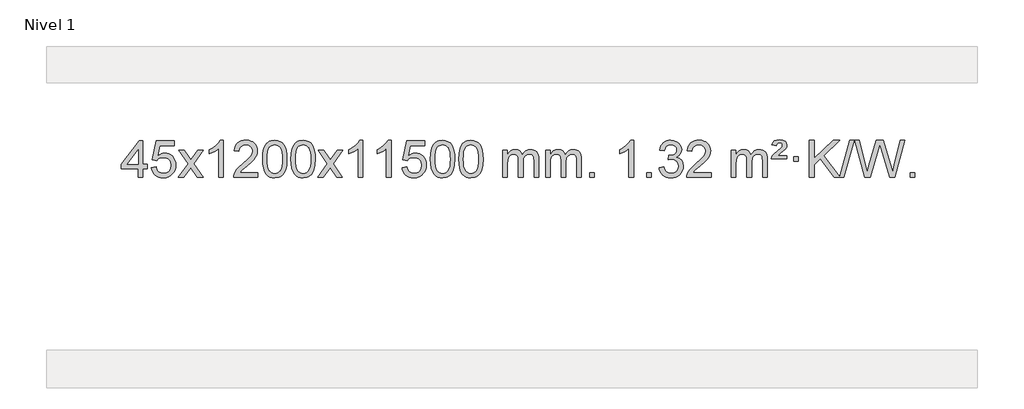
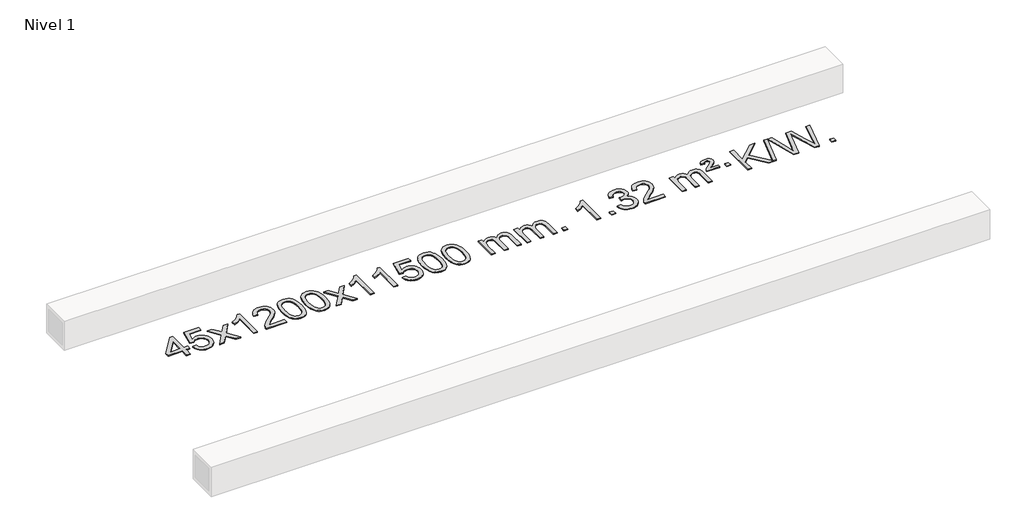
# One storey, part 2 of 4: 1 proxy.
"""IFC4 building model written with IfcOpenShell, lengths in millimetres."""

from ifc_helpers import new_model, si_unit, origin, origin_with_axes, place, context, project, spatial, polyline, outline, extrude, element, save

model = new_model("IFC4")

# Units and contexts
model_context = context("Model", 3, world=origin())
ifc_project = project(units=[si_unit("LENGTHUNIT", "METRE", prefix="MILLI")], contexts=[model_context])

# Site, building, storey
site = spatial("IfcSite", under=ifc_project)
building = spatial("IfcBuilding", under=site)
storey = spatial("IfcBuildingStorey", under=building, Name="Nivel 1", Elevation=0.0)

# Proxy
placement = place(None, origin())
element("IfcBuildingElementProxy", 1, Name="Texto de modelo 1", ObjectType="Texto de modelo 1", at=placement, inside=storey, context=model_context, shape_type="SweptSolid", body=[
    extrude(outline(polyline([(-19001.7254597, -4316.3248037), (-19001.7254597, -4222.1470129), (-19183.8025218, -4222.1470129), (-19183.8025218, -4171.9188579), (-18989.1684209, -3920.7780825), (-18951.4973046, -3920.7780825), (-18951.4973046, -4171.9188579), (-18901.2691495, -4171.9188579), (-18901.2691495, -4222.1470129), (-18951.4973046, -4222.1470129), (-18951.4973046, -4316.3248037), (-19001.7254597, -4316.3248037)]), holes=[polyline([(-19001.7254597, -4171.9188579), (-19001.7254597, -4016.7217068), (-19121.9983466, -4171.9188579), (-19001.7254597, -4171.9188579)])]), origin_with_axes(), (0.0, 0.0, 1.0), 10.0),
    extrude(outline(polyline([(-18857.3195138, -4209.5899742), (-18807.0913588, -4203.3114548), (-18797.8697834, -4233.4655156), (-18781.7810775, -4255.0601888), (-18758.8988174, -4268.0464232), (-18729.2965795, -4272.375168), (-18710.1667158, -4270.8699175), (-18693.2931949, -4266.354166), (-18678.676017, -4258.8279135), (-18666.3151819, -4248.2911601), (-18656.4866013, -4235.2650717), (-18649.4661866, -4220.2708148), (-18643.8498548, -4184.3777948), (-18649.1105673, -4150.5817021), (-18655.686458, -4136.6635), (-18664.8927049, -4124.7318606), (-18676.7599649, -4115.1607974), (-18691.3188949, -4108.3243236), (-18728.5117646, -4102.8551446), (-18752.8778154, -4105.0379111), (-18772.6085531, -4111.5862106), (-18788.3661652, -4121.6171264), (-18800.8128394, -4134.2477415), (-18851.0409945, -4127.9692222), (-18807.0913588, -3920.7780825), (-18612.4572579, -3920.7780825), (-18612.4572579, -3971.0062376), (-18766.4771865, -3971.0062376), (-18787.961495, -4081.6651417), (-18770.2357142, -4068.9609501), (-18752.0807378, -4059.8865276), (-18733.4965656, -4054.4418741), (-18714.4831979, -4052.6269896), (-18690.0221109, -4054.8772011), (-18667.553718, -4061.6278357), (-18647.0780193, -4072.8788934), (-18628.5950147, -4088.6303741), (-18613.2941894, -4107.9196534), (-18602.3650285, -4129.7841067), (-18595.8075319, -4154.2237339), (-18593.6216997, -4181.2385351), (-18595.5898684, -4207.2600549), (-18601.4943744, -4231.4666901), (-18611.3352178, -4253.8584409), (-18625.1123985, -4274.4353072), (-18645.9835703, -4295.5088141), (-18670.3373584, -4310.5613191), (-18698.1737627, -4319.5928221), (-18729.4927833, -4322.6033231), (-18755.4131355, -4320.6688769), (-18778.8257588, -4314.8655384), (-18799.7306532, -4305.1933077), (-18818.1278186, -4291.6521846), (-18833.4347753, -4274.9166195), (-18845.0690434, -4255.6610627), (-18853.0306229, -4233.8855143), (-18857.3195138, -4209.5899742)])), origin_with_axes(), (0.0, 0.0, 1.0), 10.0),
    extrude(outline(polyline([(-18568.5076222, -4316.3248037), (-18461.1841814, -4167.9947832), (-18562.2291028, -4021.2343926), (-18501.7983537, -4021.2343926), (-18453.0417266, -4091.8677357), (-18430.2820938, -4125.2223699), (-18410.5636189, -4097.9500514), (-18355.0379631, -4021.2343926), (-18294.607214, -4021.2343926), (-18400.7534324, -4167.9947832), (-18298.5312886, -4316.3248037), (-18358.9620377, -4316.3248037), (-18420.4719073, -4227.1502081), (-18431.7536218, -4210.8652984), (-18508.0768731, -4316.3248037), (-18568.5076222, -4316.3248037)])), origin_with_axes(), (0.0, 0.0, 1.0), 10.0),
    extrude(outline(polyline([(-18078.7831102, -4316.3248037), (-18129.0112653, -4316.3248037), (-18129.0112653, -4003.1836494), (-18149.980539, -4020.1430094), (-18176.59067, -4037.0778439), (-18229.4675754, -4062.4371761), (-18229.4675754, -4014.9558732), (-18190.0183628, -3993.4960902), (-18155.8421254, -3967.9650797), (-18128.9009007, -3940.8153885), (-18111.1567258, -3914.4995631), (-18078.7831102, -3914.4995631), (-18078.7831102, -4316.3248037)])), origin_with_axes(), (0.0, 0.0, 1.0), 10.0),
    extrude(outline(polyline([(-17702.0719471, -4266.0966486), (-17702.0719471, -4316.3248037), (-17965.7697613, -4316.3248037), (-17964.6661153, -4298.6419425), (-17960.3741587, -4281.6948452), (-17947.9887982, -4254.6309931), (-17929.8644785, -4228.3764814), (-17903.646755, -4200.8956963), (-17866.9811828, -4170.1530243), (-17812.7799022, -4122.0095338), (-17780.2591338, -4086.4721331), (-17763.9987496, -4057.6301847), (-17758.5786216, -4029.5730512), (-17763.6921813, -4004.4221855), (-17779.0328605, -3983.5142254), (-17802.6140964, -3969.424345), (-17832.4493262, -3964.7277182), (-17863.7806095, -3969.3139804), (-17888.1221348, -3983.072767), (-17903.830696, -4004.9249575), (-17909.2630868, -4033.7914314), (-17959.4912419, -4027.512912), (-17955.1716941, -4001.5833627), (-17947.3143478, -3978.9279632), (-17935.919203, -3959.5467134), (-17920.9862597, -3943.4396134), (-17902.8588744, -3930.7783414), (-17881.8804036, -3921.7345757), (-17858.0508474, -3916.3083162), (-17831.3702057, -3914.4995631), (-17804.4504407, -3916.5106513), (-17780.4921258, -3922.5439161), (-17759.4952609, -3932.5993573), (-17741.4598461, -3946.6769749), (-17726.9744925, -3963.7344368), (-17716.6278114, -3982.7294105), (-17710.4198027, -4003.661896), (-17708.3504665, -4026.5318934), (-17710.5822839, -4050.5545876), (-17717.2777363, -4074.160349), (-17729.1603247, -4098.1707806), (-17746.9535505, -4123.4074854), (-17775.3172524, -4153.5370208), (-17818.9112688, -4192.225944), (-17876.6932675, -4240.5411127), (-17899.3547984, -4266.0966486), (-17702.0719471, -4266.0966486)])), origin_with_axes(), (0.0, 0.0, 1.0), 10.0),
    extrude(outline(polyline([(-17651.8437921, -4118.649545), (-17648.1527094, -4054.3315095), (-17637.0794613, -4003.0364966), (-17618.7344125, -3963.9796914), (-17606.8763495, -3948.7463112), (-17593.2279275, -3936.3762791), (-17577.7431612, -3926.8052158), (-17560.3760653, -3919.9687421), (-17519.994885, -3914.4995631), (-17489.0437465, -3917.7369247), (-17461.3299695, -3927.4490093), (-17438.1534038, -3943.2556724), (-17420.8138991, -3964.7767691), (-17407.7173001, -3991.8283585), (-17397.2694514, -4024.2264995), (-17390.4268463, -4065.3679693), (-17388.1459779, -4118.649545), (-17391.8002724, -4182.5996984), (-17402.7631558, -4233.772084), (-17420.9978401, -4272.8656773), (-17432.8283119, -4288.1450429), (-17446.4675369, -4300.5794543), (-17461.9706973, -4310.2148969), (-17479.3929754, -4317.0973559), (-17519.994885, -4322.6033231), (-17547.659611, -4320.2120901), (-17572.1850774, -4313.0383912), (-17593.571284, -4301.0822264), (-17611.818231, -4284.3435956), (-17629.3294139, -4254.0853015), (-17641.8374018, -4216.3835283), (-17649.3421945, -4171.2382762), (-17651.8437921, -4118.649545)]), holes=[polyline([(-17601.615637, -4118.5514431), (-17600.144109, -4162.2159702), (-17595.7295251, -4197.5602329), (-17588.3718851, -4224.5842311), (-17578.0711893, -4243.2879649), (-17565.6122524, -4256.0136163), (-17551.7798894, -4265.1033672), (-17536.5741002, -4270.5572178), (-17519.994885, -4272.375168), (-17503.4156697, -4270.5510864), (-17488.2098806, -4265.0788418), (-17474.3775176, -4255.958434), (-17461.9185807, -4243.1898631), (-17451.6178848, -4224.4554724), (-17444.2602449, -4197.4376056), (-17439.845661, -4162.1362625), (-17438.374133, -4118.5514431), (-17439.79661, -4076.0426785), (-17444.0640412, -4041.3207496), (-17451.1764264, -4014.3856562), (-17461.1337658, -3995.2373983), (-17473.3842362, -3981.8894132), (-17487.3760147, -3972.3551382), (-17503.1091014, -3966.6345732), (-17520.5834962, -3964.7277182), (-17537.0768723, -3966.4077126), (-17552.025144, -3971.4476959), (-17565.4283114, -3979.8476682), (-17577.2863744, -3991.6076293), (-17587.9304268, -4012.4542757), (-17595.5333213, -4040.5604601), (-17600.0950581, -4075.9261826), (-17601.615637, -4118.5514431)])]), origin_with_axes(), (0.0, 0.0, 1.0), 10.0),
    extrude(outline(polyline([(-17344.1963422, -4118.649545), (-17340.5052595, -4054.3315095), (-17329.4320115, -4003.0364966), (-17311.0869627, -3963.9796914), (-17299.2288997, -3948.7463112), (-17285.5804777, -3936.3762791), (-17270.0957113, -3926.8052158), (-17252.7286155, -3919.9687421), (-17212.3474351, -3914.4995631), (-17181.3962966, -3917.7369247), (-17153.6825196, -3927.4490093), (-17130.505954, -3943.2556724), (-17113.1664492, -3964.7767691), (-17100.0698502, -3991.8283585), (-17089.6220016, -4024.2264995), (-17082.7793964, -4065.3679693), (-17080.4985281, -4118.649545), (-17084.1528226, -4182.5996984), (-17095.115706, -4233.772084), (-17113.3503902, -4272.8656773), (-17125.1808621, -4288.1450429), (-17138.820087, -4300.5794543), (-17154.3232475, -4310.2148969), (-17171.7455256, -4317.0973559), (-17212.3474351, -4322.6033231), (-17240.0121612, -4320.2120901), (-17264.5376275, -4313.0383912), (-17285.9238342, -4301.0822264), (-17304.1707811, -4284.3435956), (-17321.6819641, -4254.0853015), (-17334.1899519, -4216.3835283), (-17341.6947446, -4171.2382762), (-17344.1963422, -4118.649545)]), holes=[polyline([(-17293.9681871, -4118.5514431), (-17292.4966592, -4162.2159702), (-17288.0820752, -4197.5602329), (-17280.7244353, -4224.5842311), (-17270.4237395, -4243.2879649), (-17257.9648025, -4256.0136163), (-17244.1324395, -4265.1033672), (-17228.9266504, -4270.5572178), (-17212.3474351, -4272.375168), (-17195.7682199, -4270.5510864), (-17180.5624308, -4265.0788418), (-17166.7300677, -4255.958434), (-17154.2711308, -4243.1898631), (-17143.970435, -4224.4554724), (-17136.6127951, -4197.4376056), (-17132.1982111, -4162.1362625), (-17130.7266831, -4118.5514431), (-17132.1491602, -4076.0426785), (-17136.4165913, -4041.3207496), (-17143.5289766, -4014.3856562), (-17153.4863159, -3995.2373983), (-17165.7367864, -3981.8894132), (-17179.7285649, -3972.3551382), (-17195.4616516, -3966.6345732), (-17212.9360463, -3964.7277182), (-17229.4294225, -3966.4077126), (-17244.3776942, -3971.4476959), (-17257.7808616, -3979.8476682), (-17269.6389245, -3991.6076293), (-17280.2829769, -4012.4542757), (-17287.8858715, -4040.5604601), (-17292.4476082, -4075.9261826), (-17293.9681871, -4118.5514431)])]), origin_with_axes(), (0.0, 0.0, 1.0), 10.0),
    extrude(outline(polyline([(-17055.3844505, -4316.3248037), (-16948.0610098, -4167.9947832), (-17049.1059312, -4021.2343926), (-16988.6751821, -4021.2343926), (-16939.918555, -4091.8677357), (-16917.1589222, -4125.2223699), (-16897.4404473, -4097.9500514), (-16841.9147915, -4021.2343926), (-16781.4840424, -4021.2343926), (-16887.6302607, -4167.9947832), (-16785.408117, -4316.3248037), (-16845.8388661, -4316.3248037), (-16907.3487357, -4227.1502081), (-16918.6304502, -4210.8652984), (-16994.9537015, -4316.3248037), (-17055.3844505, -4316.3248037)])), origin_with_axes(), (0.0, 0.0, 1.0), 10.0),
    extrude(outline(polyline([(-16565.6599386, -4316.3248037), (-16615.8880936, -4316.3248037), (-16615.8880936, -4003.1836494), (-16636.8573674, -4020.1430094), (-16663.4674983, -4037.0778439), (-16716.3444038, -4062.4371761), (-16716.3444038, -4014.9558732), (-16676.8951912, -3993.4960902), (-16642.7189538, -3967.9650797), (-16615.777729, -3940.8153885), (-16598.0335541, -3914.4995631), (-16565.6599386, -3914.4995631), (-16565.6599386, -4316.3248037)])), origin_with_axes(), (0.0, 0.0, 1.0), 10.0),
    extrude(outline(polyline([(-16258.0124887, -4316.3248037), (-16308.2406438, -4316.3248037), (-16308.2406438, -4003.1836494), (-16329.2099175, -4020.1430094), (-16355.8200485, -4037.0778439), (-16408.6969539, -4062.4371761), (-16408.6969539, -4014.9558732), (-16369.2477413, -3993.4960902), (-16335.071504, -3967.9650797), (-16308.1302792, -3940.8153885), (-16290.3861043, -3914.4995631), (-16258.0124887, -3914.4995631), (-16258.0124887, -4316.3248037)])), origin_with_axes(), (0.0, 0.0, 1.0), 10.0),
    extrude(outline(polyline([(-16138.7206204, -4209.5899742), (-16088.4924653, -4203.3114548), (-16079.27089, -4233.4655156), (-16063.1821841, -4255.0601888), (-16040.299924, -4268.0464232), (-16010.6976861, -4272.375168), (-15991.5678224, -4270.8699175), (-15974.6943015, -4266.354166), (-15960.0771236, -4258.8279135), (-15947.7162885, -4248.2911601), (-15937.8877079, -4235.2650717), (-15930.8672931, -4220.2708148), (-15925.2509614, -4184.3777948), (-15930.5116739, -4150.5817021), (-15937.0875645, -4136.6635), (-15946.2938115, -4124.7318606), (-15958.1610715, -4115.1607974), (-15972.7200015, -4108.3243236), (-16009.9128712, -4102.8551446), (-16034.278922, -4105.0379111), (-16054.0096597, -4111.5862106), (-16069.7672718, -4121.6171264), (-16082.213946, -4134.2477415), (-16132.442101, -4127.9692222), (-16088.4924653, -3920.7780825), (-15893.8583644, -3920.7780825), (-15893.8583644, -3971.0062376), (-16047.8782931, -3971.0062376), (-16069.3626016, -4081.6651417), (-16051.6368208, -4068.9609501), (-16033.4818443, -4059.8865276), (-16014.8976722, -4054.4418741), (-15995.8843044, -4052.6269896), (-15971.4232174, -4054.8772011), (-15948.9548246, -4061.6278357), (-15928.4791259, -4072.8788934), (-15909.9961213, -4088.6303741), (-15894.695296, -4107.9196534), (-15883.766135, -4129.7841067), (-15877.2086385, -4154.2237339), (-15875.0228063, -4181.2385351), (-15876.990975, -4207.2600549), (-15882.895481, -4231.4666901), (-15892.7363243, -4253.8584409), (-15906.5135051, -4274.4353072), (-15927.3846769, -4295.5088141), (-15951.738465, -4310.5613191), (-15979.5748693, -4319.5928221), (-16010.8938898, -4322.6033231), (-16036.8142421, -4320.6688769), (-16060.2268654, -4314.8655384), (-16081.1317598, -4305.1933077), (-16099.5289252, -4291.6521846), (-16114.8358819, -4274.9166195), (-16126.47015, -4255.6610627), (-16134.4317295, -4233.8855143), (-16138.7206204, -4209.5899742)])), origin_with_axes(), (0.0, 0.0, 1.0), 10.0),
    extrude(outline(polyline([(-15831.0731706, -4118.649545), (-15827.3820879, -4054.3315095), (-15816.3088398, -4003.0364966), (-15797.963791, -3963.9796914), (-15786.105728, -3948.7463112), (-15772.457306, -3936.3762791), (-15756.9725397, -3926.8052158), (-15739.6054439, -3919.9687421), (-15699.2242635, -3914.4995631), (-15668.273125, -3917.7369247), (-15640.559348, -3927.4490093), (-15617.3827823, -3943.2556724), (-15600.0432776, -3964.7767691), (-15586.9466786, -3991.8283585), (-15576.4988299, -4024.2264995), (-15569.6562248, -4065.3679693), (-15567.3753564, -4118.649545), (-15571.0296509, -4182.5996984), (-15581.9925344, -4233.772084), (-15600.2272186, -4272.8656773), (-15612.0576904, -4288.1450429), (-15625.6969154, -4300.5794543), (-15641.2000758, -4310.2148969), (-15658.622354, -4317.0973559), (-15699.2242635, -4322.6033231), (-15726.8889896, -4320.2120901), (-15751.4144559, -4313.0383912), (-15772.8006626, -4301.0822264), (-15791.0476095, -4284.3435956), (-15808.5587925, -4254.0853015), (-15821.0667803, -4216.3835283), (-15828.571573, -4171.2382762), (-15831.0731706, -4118.649545)]), holes=[polyline([(-15780.8450155, -4118.5514431), (-15779.3734875, -4162.2159702), (-15774.9589036, -4197.5602329), (-15767.6012637, -4224.5842311), (-15757.3005678, -4243.2879649), (-15744.8416309, -4256.0136163), (-15731.0092679, -4265.1033672), (-15715.8034788, -4270.5572178), (-15699.2242635, -4272.375168), (-15682.6450483, -4270.5510864), (-15667.4392591, -4265.0788418), (-15653.6068961, -4255.958434), (-15641.1479592, -4243.1898631), (-15630.8472633, -4224.4554724), (-15623.4896234, -4197.4376056), (-15619.0750395, -4162.1362625), (-15617.6035115, -4118.5514431), (-15619.0259886, -4076.0426785), (-15623.2934197, -4041.3207496), (-15630.405805, -4014.3856562), (-15640.3631443, -3995.2373983), (-15652.6136147, -3981.8894132), (-15666.6053933, -3972.3551382), (-15682.3384799, -3966.6345732), (-15699.8128747, -3964.7277182), (-15716.3062508, -3966.4077126), (-15731.2545226, -3971.4476959), (-15744.6576899, -3979.8476682), (-15756.5157529, -3991.6076293), (-15767.1598053, -4012.4542757), (-15774.7626999, -4040.5604601), (-15779.3244366, -4075.9261826), (-15780.8450155, -4118.5514431)])]), origin_with_axes(), (0.0, 0.0, 1.0), 10.0),
    extrude(outline(polyline([(-15523.4257208, -4118.649545), (-15519.7346381, -4054.3315095), (-15508.66139, -4003.0364966), (-15490.3163412, -3963.9796914), (-15478.4582782, -3948.7463112), (-15464.8098562, -3936.3762791), (-15449.3250899, -3926.8052158), (-15431.957994, -3919.9687421), (-15391.5768137, -3914.4995631), (-15360.6256752, -3917.7369247), (-15332.9118982, -3927.4490093), (-15309.7353325, -3943.2556724), (-15292.3958278, -3964.7767691), (-15279.2992288, -3991.8283585), (-15268.8513801, -4024.2264995), (-15262.008775, -4065.3679693), (-15259.7279066, -4118.649545), (-15263.3822011, -4182.5996984), (-15274.3450846, -4233.772084), (-15292.5797688, -4272.8656773), (-15304.4102406, -4288.1450429), (-15318.0494656, -4300.5794543), (-15333.552626, -4310.2148969), (-15350.9749041, -4317.0973559), (-15391.5768137, -4322.6033231), (-15419.2415397, -4320.2120901), (-15443.7670061, -4313.0383912), (-15465.1532127, -4301.0822264), (-15483.4001597, -4284.3435956), (-15500.9113427, -4254.0853015), (-15513.4193305, -4216.3835283), (-15520.9241232, -4171.2382762), (-15523.4257208, -4118.649545)]), holes=[polyline([(-15473.1975657, -4118.5514431), (-15471.7260377, -4162.2159702), (-15467.3114538, -4197.5602329), (-15459.9538139, -4224.5842311), (-15449.653118, -4243.2879649), (-15437.1941811, -4256.0136163), (-15423.3618181, -4265.1033672), (-15408.1560289, -4270.5572178), (-15391.5768137, -4272.375168), (-15374.9975984, -4270.5510864), (-15359.7918093, -4265.0788418), (-15345.9594463, -4255.958434), (-15333.5005094, -4243.1898631), (-15323.1998135, -4224.4554724), (-15315.8421736, -4197.4376056), (-15311.4275897, -4162.1362625), (-15309.9560617, -4118.5514431), (-15311.3785387, -4076.0426785), (-15315.6459699, -4041.3207496), (-15322.7583551, -4014.3856562), (-15332.7156945, -3995.2373983), (-15344.9661649, -3981.8894132), (-15358.9579434, -3972.3551382), (-15374.6910301, -3966.6345732), (-15392.1654249, -3964.7277182), (-15408.658801, -3966.4077126), (-15423.6070727, -3971.4476959), (-15437.0102401, -3979.8476682), (-15448.8683031, -3991.6076293), (-15459.5123555, -4012.4542757), (-15467.11525, -4040.5604601), (-15471.6769868, -4075.9261826), (-15473.1975657, -4118.5514431)])]), origin_with_axes(), (0.0, 0.0, 1.0), 10.0),
    extrude(outline(polyline([(-15046.2582475, -4316.3248037), (-15046.2582475, -4021.2343926), (-14996.0300925, -4021.2343926), (-14996.0300925, -4069.794816), (-14980.9224052, -4047.4889044), (-14961.4982359, -4030.0145096), (-14938.419772, -4018.7205323), (-14912.3492013, -4014.9558732), (-14884.4146951, -4018.7941087), (-14862.0229444, -4030.3088152), (-14845.2965763, -4048.7397031), (-14834.3582183, -4073.3264831), (-14816.0499577, -4047.7893413), (-14795.1665231, -4029.5485257), (-14771.7079145, -4018.6040364), (-14745.674132, -4014.9558732), (-14725.5663153, -4016.4733865), (-14707.9171766, -4021.0259262), (-14692.7267159, -4028.6134923), (-14679.9949331, -4039.2360849), (-14669.9302949, -4053.0163313), (-14662.7412676, -4070.0768589), (-14658.4278512, -4090.4176675), (-14656.9900457, -4114.0387573), (-14656.9900457, -4316.3248037), (-14707.2182008, -4316.3248037), (-14707.2182008, -4135.6211677), (-14708.3831604, -4110.5684038), (-14711.8780394, -4093.6826202), (-14718.4263389, -4082.1188628), (-14728.7515602, -4073.0321776), (-14742.0321003, -4067.1460656), (-14757.4463559, -4065.1840283), (-14784.6573608, -4070.2117489), (-14806.8406451, -4085.2949107), (-14815.4460181, -4096.8647995), (-14821.5927131, -4111.4635833), (-14826.5100691, -4149.7478363), (-14826.5100691, -4316.3248037), (-14876.7382242, -4316.3248037), (-14876.7382242, -4130.0293613), (-14879.6444919, -4101.6288713), (-14888.3632952, -4081.3708361), (-14903.7039744, -4069.2307303), (-14926.4758699, -4065.1840283), (-14945.8264629, -4067.8818296), (-14963.6564769, -4075.9752335), (-14978.3717567, -4089.2680363), (-14988.378147, -4107.5640342), (-14994.1171061, -4132.9478918), (-14996.0300925, -4167.5042739), (-14996.0300925, -4316.3248037), (-15046.2582475, -4316.3248037)])), origin_with_axes(), (0.0, 0.0, 1.0), 10.0),
    extrude(outline(polyline([(-14581.6478131, -4316.3248037), (-14581.6478131, -4021.2343926), (-14531.419658, -4021.2343926), (-14531.419658, -4069.794816), (-14516.3119708, -4047.4889044), (-14496.8878014, -4030.0145096), (-14473.8093376, -4018.7205323), (-14447.7387669, -4014.9558732), (-14419.8042607, -4018.7941087), (-14397.4125099, -4030.3088152), (-14380.6861419, -4048.7397031), (-14369.7477839, -4073.3264831), (-14351.4395233, -4047.7893413), (-14330.5560887, -4029.5485257), (-14307.0974801, -4018.6040364), (-14281.0636976, -4014.9558732), (-14260.9558809, -4016.4733865), (-14243.3067421, -4021.0259262), (-14228.1162814, -4028.6134923), (-14215.3844987, -4039.2360849), (-14205.3198605, -4053.0163313), (-14198.1308331, -4070.0768589), (-14193.8174167, -4090.4176675), (-14192.3796113, -4114.0387573), (-14192.3796113, -4316.3248037), (-14242.6077663, -4316.3248037), (-14242.6077663, -4135.6211677), (-14243.772726, -4110.5684038), (-14247.267605, -4093.6826202), (-14253.8159045, -4082.1188628), (-14264.1411258, -4073.0321776), (-14277.4216658, -4067.1460656), (-14292.8359214, -4065.1840283), (-14320.0469263, -4070.2117489), (-14342.2302106, -4085.2949107), (-14350.8355836, -4096.8647995), (-14356.9822786, -4111.4635833), (-14361.8996347, -4149.7478363), (-14361.8996347, -4316.3248037), (-14412.1277897, -4316.3248037), (-14412.1277897, -4130.0293613), (-14415.0340575, -4101.6288713), (-14423.7528608, -4081.3708361), (-14439.09354, -4069.2307303), (-14461.8654355, -4065.1840283), (-14481.2160284, -4067.8818296), (-14499.0460425, -4075.9752335), (-14513.7613223, -4089.2680363), (-14523.7677125, -4107.5640342), (-14529.5066717, -4132.9478918), (-14531.419658, -4167.5042739), (-14531.419658, -4316.3248037), (-14581.6478131, -4316.3248037)])), origin_with_axes(), (0.0, 0.0, 1.0), 10.0),
    extrude(outline(polyline([(-14104.4803399, -4316.3248037), (-14104.4803399, -4266.0966486), (-14054.2521848, -4266.0966486), (-14054.2521848, -4316.3248037), (-14104.4803399, -4316.3248037)])), origin_with_axes(), (0.0, 0.0, 1.0), 10.0),
    extrude(outline(polyline([(-13627.3128667, -4316.3248037), (-13677.5410218, -4316.3248037), (-13677.5410218, -4003.1836494), (-13698.5102955, -4020.1430094), (-13725.1204265, -4037.0778439), (-13777.9973319, -4062.4371761), (-13777.9973319, -4014.9558732), (-13738.5481193, -3993.4960902), (-13704.3718819, -3967.9650797), (-13677.4306572, -3940.8153885), (-13659.6864823, -3914.4995631), (-13627.3128667, -3914.4995631), (-13627.3128667, -4316.3248037)])), origin_with_axes(), (0.0, 0.0, 1.0), 10.0),
    extrude(outline(polyline([(-13482.9069208, -4316.3248037), (-13482.9069208, -4266.0966486), (-13432.6787658, -4266.0966486), (-13432.6787658, -4316.3248037), (-13482.9069208, -4316.3248037)])), origin_with_axes(), (0.0, 0.0, 1.0), 10.0),
    extrude(outline(polyline([(-13351.0580138, -4209.5899742), (-13300.8298587, -4203.3114548), (-13289.5849324, -4234.87573), (-13273.1160817, -4256.1883602), (-13250.6139664, -4268.3284661), (-13221.2692459, -4272.375168), (-13186.8354911, -4266.8078871), (-13172.5616697, -4259.8487861), (-13160.2498856, -4250.1060446), (-13143.2537374, -4225.1881708), (-13137.5883547, -4194.9727962), (-13143.2046865, -4166.2902633), (-13160.0536819, -4143.0278585), (-13185.5601669, -4127.6136029), (-13217.1489675, -4122.4755177), (-13252.3675372, -4127.9692222), (-13246.7757309, -4077.7410671), (-13238.7313779, -4078.3296783), (-13208.6386307, -4074.7244347), (-13181.7341941, -4063.9087041), (-13170.6609461, -4055.729461), (-13162.7514832, -4045.6127062), (-13158.0058054, -4033.5584395), (-13156.4239129, -4019.5666609), (-13161.0101751, -3997.8738859), (-13174.7689617, -3980.2768638), (-13195.7627609, -3968.6150046), (-13222.0540608, -3964.7277182), (-13248.3944116, -3968.6517928), (-13269.9277711, -3980.4240166), (-13285.648595, -4000.0443897), (-13294.5513393, -4027.512912), (-13344.7794944, -4021.2343926), (-13338.8259374, -3997.2546179), (-13329.9906382, -3976.13206), (-13318.2735966, -3957.866719), (-13303.6748128, -3942.4585947), (-13286.6541391, -3930.2265184), (-13267.6714282, -3921.489321), (-13246.7266799, -3916.2470026), (-13223.8198944, -3914.4995631), (-13192.2433565, -3917.9453911), (-13163.2419925, -3928.2828752), (-13138.7901026, -3944.5923103), (-13120.8619867, -3965.9539915), (-13109.862315, -3990.565297), (-13106.1957578, -4016.623605), (-13109.678374, -4040.9038166), (-13120.1262227, -4062.9276854), (-13137.392151, -4081.6896672), (-13161.3290061, -4096.1842178), (-13129.8873583, -4108.8884093), (-13106.5881652, -4130.5198707), (-13092.167191, -4159.9013793), (-13087.3601996, -4195.855713), (-13089.7636953, -4221.3376725), (-13096.9741824, -4244.8085438), (-13108.9916609, -4266.2683269), (-13125.8161309, -4285.7170217), (-13146.3132894, -4301.8547786), (-13169.3488336, -4313.3817477), (-13194.9227637, -4320.2979292), (-13223.0350794, -4322.6033231), (-13248.4434626, -4320.6351544), (-13271.5955028, -4314.7306484), (-13292.4912001, -4304.889805), (-13311.1305546, -4291.1126243), (-13326.759408, -4274.2084466), (-13338.6236023, -4254.9866124), (-13346.7231376, -4233.4471215), (-13351.0580138, -4209.5899742)])), origin_with_axes(), (0.0, 0.0, 1.0), 10.0),
    extrude(outline(polyline([(-12785.9912692, -4266.0966486), (-12785.9912692, -4316.3248037), (-13049.6890833, -4316.3248037), (-13048.5854373, -4298.6419425), (-13044.2934807, -4281.6948452), (-13031.9081202, -4254.6309931), (-13013.7838006, -4228.3764814), (-12987.5660771, -4200.8956963), (-12950.9005049, -4170.1530243), (-12896.6992243, -4122.0095338), (-12864.1784559, -4086.4721331), (-12847.9180717, -4057.6301847), (-12842.4979436, -4029.5730512), (-12847.6115034, -4004.4221855), (-12862.9521826, -3983.5142254), (-12886.5334185, -3969.424345), (-12916.3686483, -3964.7277182), (-12947.6999315, -3969.3139804), (-12972.0414569, -3983.072767), (-12987.7500181, -4004.9249575), (-12993.1824089, -4033.7914314), (-13043.4105639, -4027.512912), (-13039.0910162, -4001.5833627), (-13031.2336699, -3978.9279632), (-13019.8385251, -3959.5467134), (-13004.9055818, -3943.4396134), (-12986.7781965, -3930.7783414), (-12965.7997257, -3921.7345757), (-12941.9701695, -3916.3083162), (-12915.2895277, -3914.4995631), (-12888.3697628, -3916.5106513), (-12864.4114478, -3922.5439161), (-12843.4145829, -3932.5993573), (-12825.3791681, -3946.6769749), (-12810.8938146, -3963.7344368), (-12800.5471335, -3982.7294105), (-12794.3391248, -4003.661896), (-12792.2697886, -4026.5318934), (-12794.501606, -4050.5545876), (-12801.1970583, -4074.160349), (-12813.0796468, -4098.1707806), (-12830.8728726, -4123.4074854), (-12859.2365744, -4153.5370208), (-12902.8305908, -4192.225944), (-12960.6125896, -4240.5411127), (-12983.2741205, -4266.0966486), (-12785.9912692, -4266.0966486)])), origin_with_axes(), (0.0, 0.0, 1.0), 10.0),
    extrude(outline(polyline([(-12566.2430907, -4316.3248037), (-12566.2430907, -4021.2343926), (-12516.0149357, -4021.2343926), (-12516.0149357, -4069.794816), (-12500.9072484, -4047.4889044), (-12481.483079, -4030.0145096), (-12458.4046152, -4018.7205323), (-12432.3340445, -4014.9558732), (-12404.3995383, -4018.7941087), (-12382.0077875, -4030.3088152), (-12365.2814195, -4048.7397031), (-12354.3430615, -4073.3264831), (-12336.0348009, -4047.7893413), (-12315.1513663, -4029.5485257), (-12291.6927577, -4018.6040364), (-12265.6589752, -4014.9558732), (-12245.5511585, -4016.4733865), (-12227.9020198, -4021.0259262), (-12212.711559, -4028.6134923), (-12199.9797763, -4039.2360849), (-12189.9151381, -4053.0163313), (-12182.7261108, -4070.0768589), (-12178.4126944, -4090.4176675), (-12176.9748889, -4114.0387573), (-12176.9748889, -4316.3248037), (-12227.203044, -4316.3248037), (-12227.203044, -4135.6211677), (-12228.3680036, -4110.5684038), (-12231.8628826, -4093.6826202), (-12238.4111821, -4082.1188628), (-12248.7364034, -4073.0321776), (-12262.0169434, -4067.1460656), (-12277.431199, -4065.1840283), (-12304.642204, -4070.2117489), (-12326.8254883, -4085.2949107), (-12335.4308613, -4096.8647995), (-12341.5775563, -4111.4635833), (-12346.4949123, -4149.7478363), (-12346.4949123, -4316.3248037), (-12396.7230673, -4316.3248037), (-12396.7230673, -4130.0293613), (-12399.6293351, -4101.6288713), (-12408.3481384, -4081.3708361), (-12423.6888176, -4069.2307303), (-12446.4607131, -4065.1840283), (-12465.811306, -4067.8818296), (-12483.6413201, -4075.9752335), (-12498.3565999, -4089.2680363), (-12508.3629902, -4107.5640342), (-12514.1019493, -4132.9478918), (-12516.0149357, -4167.5042739), (-12516.0149357, -4316.3248037), (-12566.2430907, -4316.3248037)])), origin_with_axes(), (0.0, 0.0, 1.0), 10.0),
    extrude(outline(polyline([(-12133.0252532, -4115.4121834), (-12129.1992805, -4099.5932576), (-12120.8606219, -4083.7252809), (-12099.3517879, -4058.5866779), (-12067.3951053, -4030.8483754), (-12023.2492658, -3993.4715647), (-12016.1123551, -3981.9445955), (-12013.7333849, -3970.1233208), (-12015.6218458, -3958.0322659), (-12021.2872285, -3948.2466048), (-12030.6559567, -3941.7718817), (-12043.6544538, -3939.6136406), (-12056.0888653, -3941.2323214), (-12064.9425586, -3946.0883637), (-12071.3682308, -3955.5551938), (-12076.5185787, -3971.0062376), (-12126.7467338, -3964.7277182), (-12115.9064777, -3939.5155388), (-12099.2782115, -3921.9553049), (-12075.5130346, -3911.654609), (-12043.2620464, -3908.2210437), (-12007.479391, -3912.3535848), (-11982.7331954, -3924.751208), (-11968.3122212, -3943.0839941), (-11963.5052298, -3965.0220238), (-11967.6009827, -3987.9288093), (-11979.8882413, -4009.5602706), (-12000.4160567, -4029.3768475), (-12036.8854251, -4057.433981), (-12062.490012, -4084.0195865), (-11963.5052298, -4084.0195865), (-11963.5052298, -4115.4121834), (-12133.0252532, -4115.4121834)])), origin_with_axes(), (0.0, 0.0, 1.0), 10.0),
    extrude(outline(polyline([(-11888.1629972, -4140.5262609), (-11888.1629972, -4090.2981059), (-11837.9348421, -4090.2981059), (-11837.9348421, -4140.5262609), (-11888.1629972, -4140.5262609)])), origin_with_axes(), (0.0, 0.0, 1.0), 10.0),
    extrude(outline(polyline([(-11447.2932142, -4316.3248037), (-11600.7245317, -4113.6463498), (-11668.4148188, -4178.1973772), (-11668.4148188, -4316.3248037), (-11718.6429738, -4316.3248037), (-11718.6429738, -3914.4995631), (-11668.4148188, -3914.4995631), (-11668.4148188, -4111.1938032), (-11462.4009015, -3914.4995631), (-11392.1599659, -3914.4995631), (-11565.1135545, -4079.7031044), (-11390.4599447, -4310.2802839), (-11279.1466169, -3914.4995631), (-11233.8235551, -3914.4995631), (-11346.836904, -4316.3248037), (-11385.8814465, -4316.3248037), (-11392.1599659, -4316.3248037), (-11447.2932142, -4316.3248037)])), origin_with_axes(), (0.0, 0.0, 1.0), 10.0),
    extrude(outline(polyline([(-11119.3386782, -4316.3248037), (-11228.9184619, -3914.4995631), (-11177.1206769, -3914.4995631), (-11113.5506682, -4178.5897847), (-11093.9302951, -4260.1124348), (-11072.9364959, -4188.0075638), (-10993.2777812, -3914.4995631), (-10918.6222617, -3914.4995631), (-10860.7421611, -4112.763433), (-10835.9469146, -4186.3398321), (-10817.6754422, -4260.1124348), (-10798.6436803, -4180.9442295), (-10734.4850603, -3914.4995631), (-10682.6872754, -3914.4995631), (-10792.3651609, -4316.3248037), (-10846.0268813, -4316.3248037), (-10942.3629131, -4006.3229091), (-10955.8028686, -3963.0599865), (-10970.9105559, -4015.152077), (-11058.7117254, -4316.3248037), (-11119.3386782, -4316.3248037)])), origin_with_axes(), (0.0, 0.0, 1.0), 10.0),
    extrude(outline(polyline([(-10626.180601, -4316.3248037), (-10626.180601, -4266.0966486), (-10575.9524459, -4266.0966486), (-10575.9524459, -4316.3248037), (-10626.180601, -4316.3248037)])), origin_with_axes(), (0.0, 0.0, 1.0), 10.0),
])

save(model, "model.ifc")
